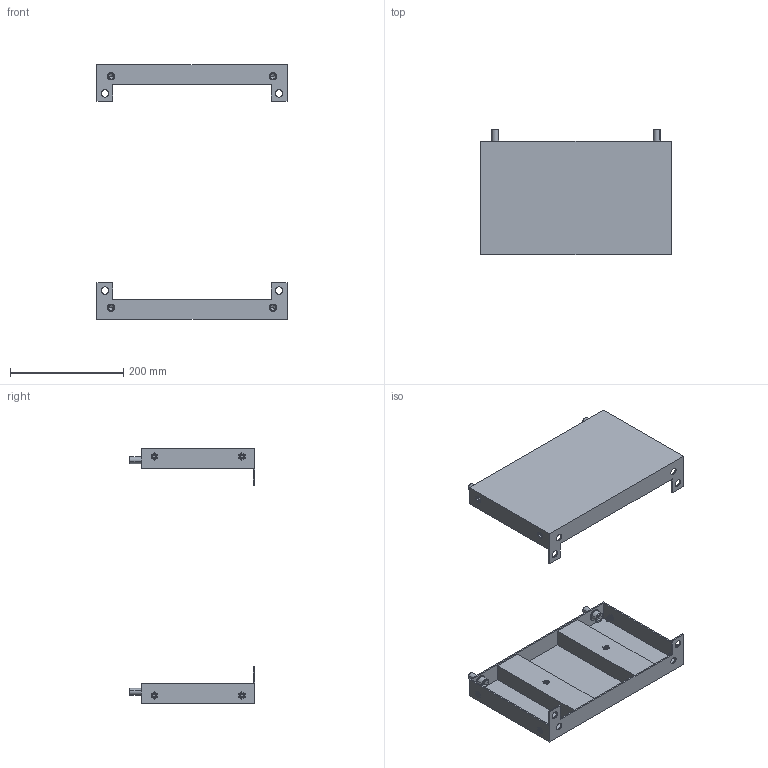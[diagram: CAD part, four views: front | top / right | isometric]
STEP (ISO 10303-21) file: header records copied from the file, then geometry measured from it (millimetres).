
FILE_DESCRIPTION (( 'STEP AP203' ), '1' );
FILE_NAME ('R6PLB40-200 H=450 SIMPLE.STEP', '2026-07-22T11:08:00', ( '' ), ( '' ), 'SwSTEP 2.0', 'SolidWorks 2022', '' );
FILE_SCHEMA (( 'CONFIG_CONTROL_DESIGN' ));
Length unit declared in the file: millimetre
Products named in the file (8): M12x25 DIN 912 HX cl.8,8 Zinc_stright; R6PLB40-200 H=450 SIMPLE; M6 MGS-MPO-0635_thread; РГМЦ.RB.3309.00.00.0 СБ SIMPLE 04-07_-06; M6 MGS-MPO-0635_straight; РГМЦ.RB.3309.00.02.0 simple_-01; РГМЦ.RB.3309.00.01.0 simple_-06; 12 DIN 6798 A Zinc
Assembly tree (19 placements, depth 3):
  R6PLB40-200 H=450 SIMPLE
    РГМЦ.RB.3309.00.00.0 СБ SIMPLE 04-07_-06  x2
      РГМЦ.RB.3309.00.01.0 simple_-06
      M6 MGS-MPO-0635_thread
      РГМЦ.RB.3309.00.02.0 simple_-01
      M6 MGS-MPO-0635_straight
    12 DIN 6798 A Zinc  x4
    M12x25 DIN 912 HX cl.8,8 Zinc_stright  x4
Bounding box: 336.7 x 221.5 x 450 mm (x, y, z)
Volume: 741076.6 mm3; surface area: 606785.8 mm2
Topology: 26 solids, 26 shells, 1468 faces, 3828 edges, 2188 vertices
Faces by surface type: plane 556, cylinder 544, bspline 152, sphere 144, cone 40, torus 32
Entity records: 13372 total; most frequent: CARTESIAN_POINT 5039, ORIENTED_EDGE 1540, DIRECTION 1409, EDGE_CURVE 770, VERTEX_POINT 482, AXIS2_PLACEMENT_3D 473, VECTOR 463, LINE 463
